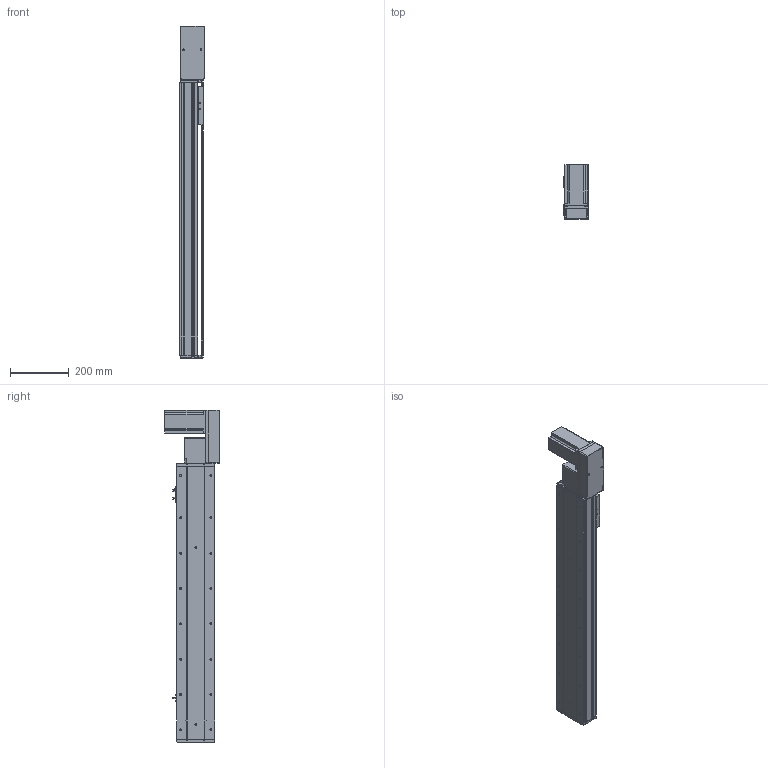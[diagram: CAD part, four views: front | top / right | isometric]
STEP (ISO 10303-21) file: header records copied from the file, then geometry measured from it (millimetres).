
FILE_DESCRIPTION (( 'STEP AP214' ), '1' );
FILE_NAME ('KSD130B-S700-MLB-CM .STEP', '2019-09-19T07:15:14', ( '微软用户' ), ( '微软中国' ), 'SwSTEP 2.0', 'SolidWorks 2014', '' );
FILE_SCHEMA (( 'AUTOMOTIVE_DESIGN' ));
Length unit declared in the file: millimetre
Products named in the file (12): 130宽马达安装板同步带左-改; 130宽盖板半封闭同步带-700行程; 130宽马达安装板同步带半封闭; 130宽同步带安装座半封闭; 台达ECMA－C20807AS伺服电机; 130宽端盖同步带半封闭; 130宽模组保护罩上下左右折-同步带; 130宽底板半封闭同步带-700行程; 130宽模组马达安装板连板左右折同步带; KSD130B-S700-MLB-CM ; U倰嫖萇EEㄜSX672; 覜茼え100遵圉猾敕
Assembly tree (13 placements, depth 2):
  KSD130B-S700-MLB-CM 
    130宽底板半封闭同步带-700行程
    130宽端盖同步带半封闭
    130宽同步带安装座半封闭
    130宽马达安装板同步带半封闭
    130宽马达安装板同步带左-改
    130宽盖板半封闭同步带-700行程
    U倰嫖萇EEㄜSX672  x3
    覜茼え100遵圉猾敕
    130宽模组马达安装板连板左右折同步带
    130宽模组保护罩上下左右折-同步带
    台达ECMA－C20807AS伺服电机
Bounding box: 82.5 x 184.8 x 1127 mm (x, y, z)
Volume: 4179577.8 mm3; surface area: 1113309 mm2
Topology: 14 solids, 14 shells, 1457 faces, 4121 edges, 2641 vertices
Faces by surface type: cylinder 688, plane 614, cone 155
Entity records: 47099 total; most frequent: CARTESIAN_POINT 8550, DIRECTION 7203, ORIENTED_EDGE 6918, EDGE_CURVE 3459, AXIS2_PLACEMENT_3D 2614, VERTEX_POINT 2265, VECTOR 1975, LINE 1975
